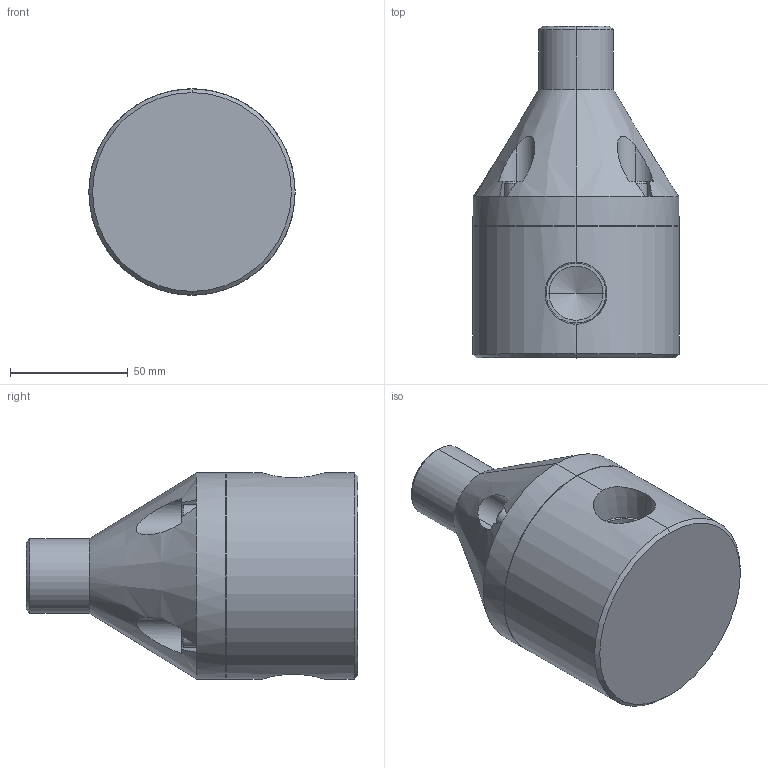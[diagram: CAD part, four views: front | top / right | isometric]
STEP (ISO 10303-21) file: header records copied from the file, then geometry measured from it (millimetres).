
FILE_DESCRIPTION (( 'STEP AP203' ), '1' );
FILE_NAME ('GBP0750-BSPT.STEP', '2015-04-27T10:04:35', ( 'Dan Bernard' ), ( '' ), 'SwSTEP 2.0', 'SolidWorks 2008', '' );
FILE_SCHEMA (( 'CONFIG_CONTROL_DESIGN' ));
Length unit declared in the file: inch
Products named in the file (1): GBP0750-BSPT
Bounding box: 87.63 x 140.97 x 87.63 mm (x, y, z)
Volume: 538050.9 mm3; surface area: 50787 mm2
Topology: 1 solids, 1 shells, 127 faces, 306 edges, 192 vertices
Faces by surface type: plane 71, cylinder 28, cone 26, torus 2
Entity records: 4133 total; most frequent: CARTESIAN_POINT 1074, DIRECTION 630, ORIENTED_EDGE 604, EDGE_CURVE 302, AXIS2_PLACEMENT_3D 222, VERTEX_POINT 192, VECTOR 186, LINE 186
